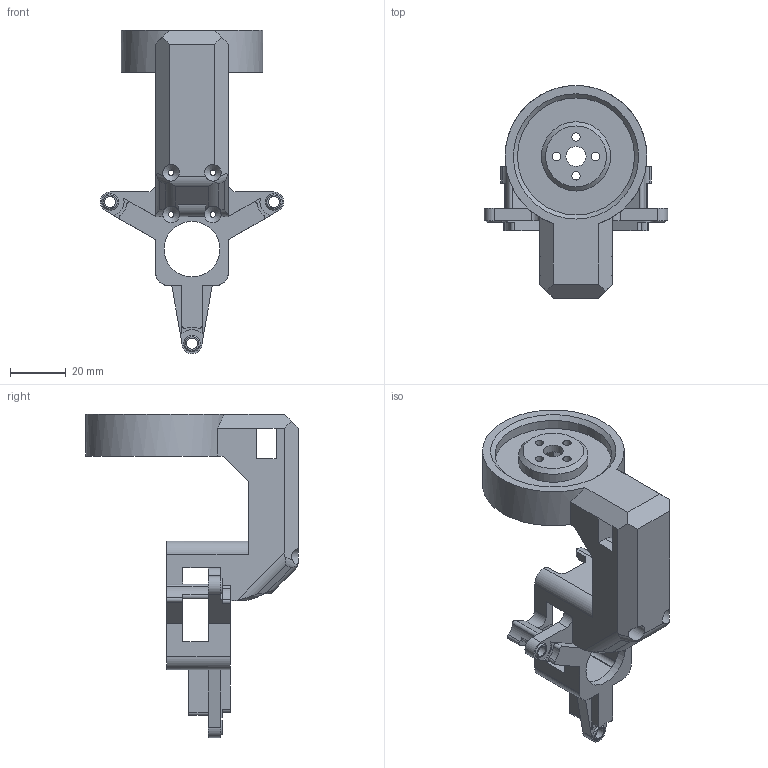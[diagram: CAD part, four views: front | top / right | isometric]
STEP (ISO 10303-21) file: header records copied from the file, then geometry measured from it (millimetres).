
FILE_DESCRIPTION(/* description */ (''),/* implementation_level */ '2;1');
FILE_NAME(/* name */ '3DP_Wheel_Servo_Holder x4.step',/* time_stamp */ '2025-11-20T01:03:48+08:00',/* author */ (''),/* organization */ (''),/* preprocessor_version */ 'ST-DEVELOPER v20.1',/* originating_system */ 'Autodesk Translation Framework v14.21.0.0',/* authorisation */ '');
FILE_SCHEMA (('AUTOMOTIVE_DESIGN { 1 0 10303 214 3 1 1 }'));
Length unit declared in the file: millimetre
Products named in the file (1): 3DP_Wheel_Servo_Holder x4
Bounding box: 66.09 x 76.5 x 116.34 mm (x, y, z)
Volume: 65251.1 mm3; surface area: 26577.3 mm2
Topology: 1 solids, 1 shells, 220 faces, 649 edges, 423 vertices
Faces by surface type: plane 121, cylinder 86, cone 13
Full cylindrical faces by diameter (mm): 2 x4, 3 x4, 4 x3, 6 x2, 7.2 x1, 20 x1, 24.9 x1, 42.1 x1
Entity records: 7567 total; most frequent: CARTESIAN_POINT 1431, ORIENTED_EDGE 1298, DIRECTION 1280, EDGE_CURVE 649, AXIS2_PLACEMENT_3D 428, LINE 424, VECTOR 424, VERTEX_POINT 423
